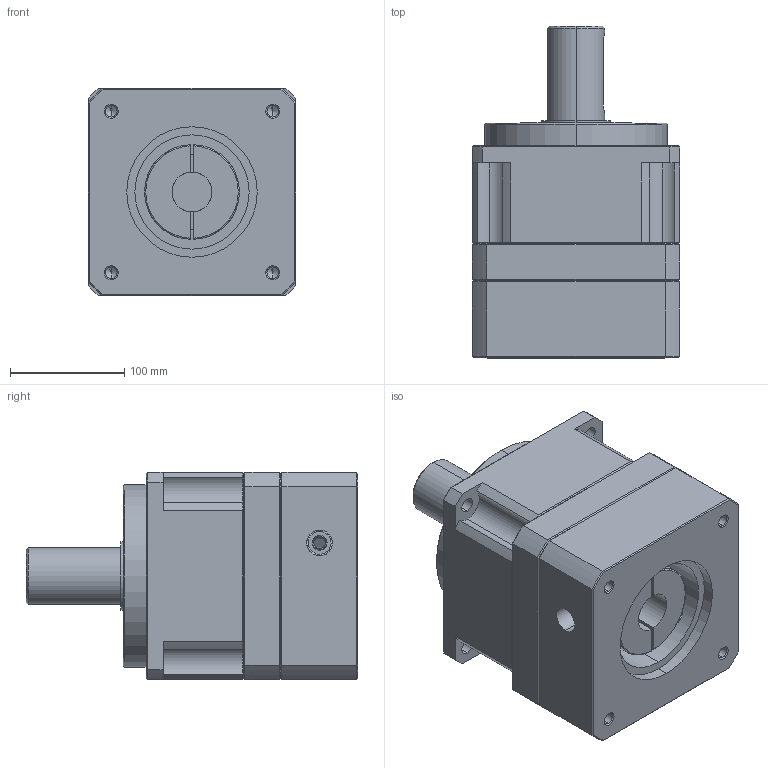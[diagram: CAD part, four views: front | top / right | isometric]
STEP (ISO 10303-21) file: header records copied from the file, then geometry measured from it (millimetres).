
FILE_DESCRIPTION (( 'STEP AP203' ), '1' );
FILE_NAME ('MF180H-L1£r114.3PCD£r200M12.STEP', '2014-04-23T03:28:02', ( 'KELLY' ), ( '' ), 'SwSTEP 2.0', 'SolidWorks 2012', '' );
FILE_SCHEMA (( 'CONFIG_CONTROL_DESIGN' ));
Length unit declared in the file: millimetre
Products named in the file (1): MF180H-L1｣r114.3PCD｣r200M12
Bounding box: 182 x 290.5 x 182 mm (x, y, z)
Volume: 5893294.9 mm3; surface area: 359136.8 mm2
Topology: 2 solids, 2 shells, 209 faces, 494 edges, 293 vertices
Faces by surface type: cylinder 78, plane 65, cone 62, torus 4
Entity records: 6727 total; most frequent: CARTESIAN_POINT 1867, DIRECTION 1028, ORIENTED_EDGE 968, EDGE_CURVE 484, AXIS2_PLACEMENT_3D 412, VERTEX_POINT 293, EDGE_LOOP 243, FACE_OUTER_BOUND 209
